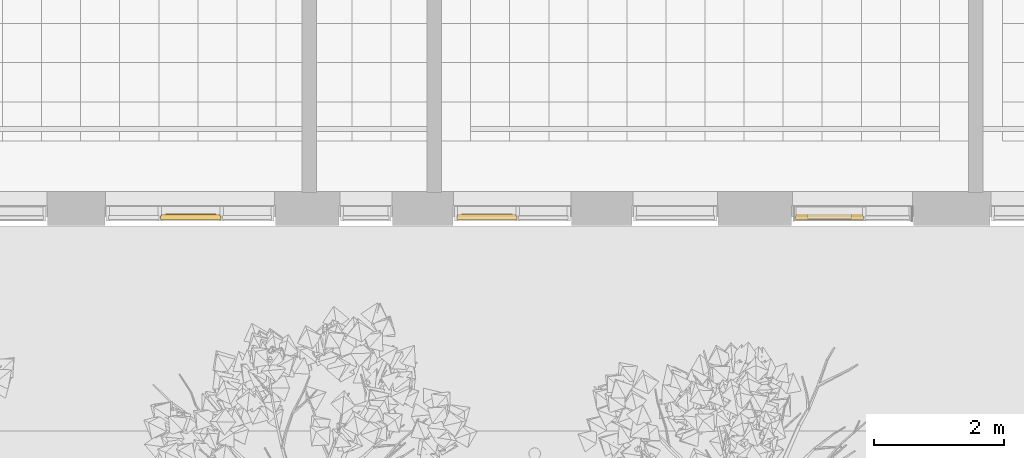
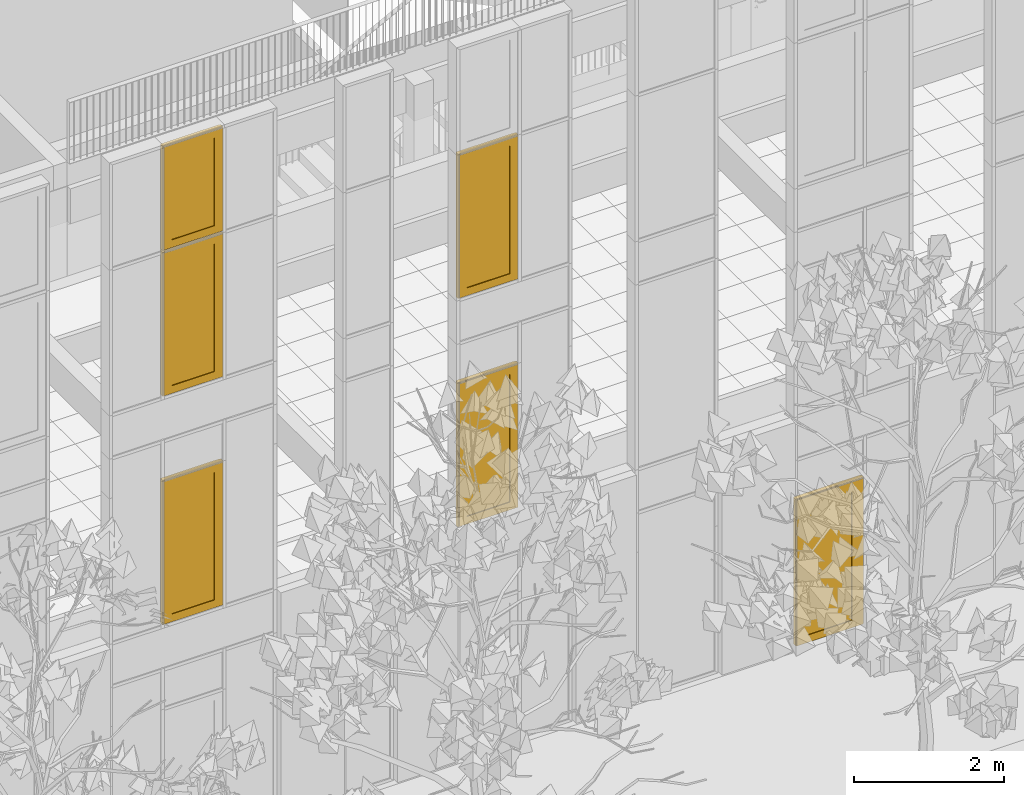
# One storey, part 146 of 246: 5 windows, 1 door, 3 elements without a shape of their own.
"""IFC2X3 building model written with IfcOpenShell, lengths in millimetres."""

from ifc_helpers import new_model, entity, si_unit, converted_unit, derived_unit, money_unit, direction, frame, origin_with_axes, place, context, subcontext, project, spatial, open_shell, faceted_brep, surface_model, source, transform, mapped, material, material_list, type_object, element, aggregate, save


model = new_model("IFC2X3")

# Units and contexts
model_context = context("Model", 3, precision=0.01, world=origin_with_axes(), true_north=direction((0.0, 1.0)))
body_context = subcontext(model_context, "Body", "Model", "MODEL_VIEW")
ifc_project = project(units=[si_unit("LENGTHUNIT", "METRE", prefix="MILLI"), si_unit("AREAUNIT", "SQUARE_METRE"), si_unit("VOLUMEUNIT", "CUBIC_METRE"), converted_unit("PLANEANGLEUNIT", "DEGREE", entity("IfcPlaneAngleMeasure", 0.0174532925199), si_unit("PLANEANGLEUNIT", "RADIAN"), dimensions=[0, 0, 0, 0, 0, 0, 0]), si_unit("SOLIDANGLEUNIT", "STERADIAN"), money_unit("EUR"), converted_unit("TIMEUNIT", "Year", entity("IfcTimeMeasure", 31556926.0), si_unit("TIMEUNIT", "SECOND"), dimensions=[0, 0, 1, 0, 0, 0, 0]), si_unit("MASSUNIT", "GRAM", prefix="KILO"), si_unit("THERMODYNAMICTEMPERATUREUNIT", "DEGREE_CELSIUS"), si_unit("LUMINOUSINTENSITYUNIT", "LUMEN"), si_unit("ENERGYUNIT", "JOULE", prefix="MEGA"), derived_unit("THERMALCONDUCTANCEUNIT", [(si_unit("POWERUNIT", "WATT"), 1), (si_unit("LENGTHUNIT", "METRE"), -1), (si_unit("THERMODYNAMICTEMPERATUREUNIT", "KELVIN"), -1)]), derived_unit("SPECIFICHEATCAPACITYUNIT", [(si_unit("ENERGYUNIT", "JOULE"), 1), (si_unit("MASSUNIT", "GRAM", prefix="KILO"), -1), (si_unit("THERMODYNAMICTEMPERATUREUNIT", "KELVIN"), -1)]), derived_unit("MASSDENSITYUNIT", [(si_unit("MASSUNIT", "GRAM", prefix="KILO"), 1), (si_unit("VOLUMEUNIT", "CUBIC_METRE"), -1)])], contexts=[model_context])

# Site, building, storey
site_placement = place(None, origin_with_axes())
site = spatial("IfcSite", under=ifc_project, at=site_placement, Name="L.Koidula tn 11b", CompositionType="ELEMENT")
building_placement = place(site_placement, origin_with_axes())
building = spatial("IfcBuilding", under=site, at=building_placement, Name="Rakvere Riigigümnaasium", CompositionType="ELEMENT")
storey_placement = place(building_placement, origin_with_axes())
storey = spatial("IfcBuildingStorey", under=building, at=storey_placement, Name="1.korrus 0,00", CompositionType="ELEMENT", Elevation=0.0)

# Curtain wall, windows
curtain_wall_type = type_object("IfcCurtainWallType", Name="Curtain Wall Type", PredefinedType="NOTDEFINED")
curtain_wall_1_placement = place(storey_placement, frame((48860.000217, 5111.43278481, -1.61944597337e-05), z_axis=(0.0, 0.0, 1.0), x_axis=(1.0, 0.0, 0.0)))
curtain_wall_1 = element("IfcCurtainWall", 1, at=curtain_wall_1_placement, inside=storey, type_object=curtain_wall_type, Name="KLF-05-3A")
ifc_material_1 = material(Name="Alumiiniumprofiil (RAL 7021)")
ifc_material_2 = material(Name="Klaaspakett 3x ribikardinatega")
ifc_material_list = material_list([ifc_material_1, ifc_material_2])
window_style_1 = type_object("IfcWindowStyle", Name="926 x 2351 x 54", ConstructionType="NOTDEFINED", OperationType="NOTDEFINED", ParameterTakesPrecedence=False, Sizeable=False)
shared_shape_1 = source(origin_with_axes(), body_context, "Body", "SurfaceModel", [
    surface_model("IfcShellBasedSurfaceModel", [(24.9999850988, 24.9999850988, 38.0), (83.9999850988, 83.9999850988, 38.0), (866.000014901, 83.9999850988, 38.0), (925.000014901, 24.9999850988, 38.0)], [open_shell([[[0, 1, 2, 3]]])]),
    surface_model("IfcShellBasedSurfaceModel", [(925.000014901, 24.9999850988, 38.0), (866.000014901, 83.9999850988, 38.0), (866.000014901, 2291.0000149, 38.0), (925.000014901, 2350.0000149, 38.0)], [open_shell([[[0, 1, 2, 3]]])]),
    surface_model("IfcShellBasedSurfaceModel", [(24.9999850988, 2350.0000149, 38.0), (925.000014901, 2350.0000149, 38.0), (866.000014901, 2291.0000149, 38.0), (83.9999850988, 2291.0000149, 38.0)], [open_shell([[[0, 1, 2, 3]]])]),
    surface_model("IfcShellBasedSurfaceModel", [(24.9999850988, 24.9999850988, 38.0), (24.9999850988, 2350.0000149, 38.0), (83.9999850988, 2291.0000149, 38.0), (83.9999850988, 83.9999850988, 38.0)], [open_shell([[[0, 1, 2, 3]]])]),
    faceted_brep([(24.9999850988, 24.9999850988, -51.0), (925.000014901, 24.9999850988, -51.0), (925.000014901, 24.9999850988, 38.0), (24.9999850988, 24.9999850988, 38.0), (83.9999850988, 83.9999850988, -51.0), (866.000014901, 83.9999850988, -51.0), (866.000014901, 83.9999850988, 38.0), (83.9999850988, 83.9999850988, 38.0)], [[[0, 1, 2, 3]], [[0, 4, 5, 1]], [[1, 5, 6, 2]], [[3, 2, 6, 7]], [[4, 0, 3, 7]], [[5, 4, 7, 6]]]),
    faceted_brep([(925.000014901, 24.9999850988, -51.0), (925.000014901, 2350.0000149, -51.0), (925.000014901, 2350.0000149, 38.0), (925.000014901, 24.9999850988, 38.0), (866.000014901, 83.9999850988, -51.0), (866.000014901, 2291.0000149, -51.0), (866.000014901, 2291.0000149, 38.0), (866.000014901, 83.9999850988, 38.0)], [[[0, 1, 2, 3]], [[0, 4, 5, 1]], [[1, 5, 6, 2]], [[3, 2, 6, 7]], [[4, 0, 3, 7]], [[5, 4, 7, 6]]]),
    faceted_brep([(24.9999850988, 2350.0000149, -51.0), (83.9999850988, 2291.0000149, -51.0), (83.9999850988, 2291.0000149, 38.0), (24.9999850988, 2350.0000149, 38.0), (925.000014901, 2350.0000149, -51.0), (866.000014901, 2291.0000149, -51.0), (866.000014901, 2291.0000149, 38.0), (925.000014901, 2350.0000149, 38.0)], [[[0, 1, 2, 3]], [[0, 4, 5, 1]], [[1, 5, 6, 2]], [[3, 2, 6, 7]], [[4, 0, 3, 7]], [[5, 4, 7, 6]]]),
    faceted_brep([(24.9999850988, 24.9999850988, -51.0), (83.9999850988, 83.9999850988, -51.0), (83.9999850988, 83.9999850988, 38.0), (24.9999850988, 24.9999850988, 38.0), (24.9999850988, 2350.0000149, -51.0), (83.9999850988, 2291.0000149, -51.0), (83.9999850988, 2291.0000149, 38.0), (24.9999850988, 2350.0000149, 38.0)], [[[0, 1, 2, 3]], [[0, 4, 5, 1]], [[1, 5, 6, 2]], [[3, 2, 6, 7]], [[4, 0, 3, 7]], [[5, 4, 7, 6]]]),
    faceted_brep([(11.9999985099, 11.9999985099, -27.0), (938.00000149, 11.9999985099, -27.0), (938.00000149, 11.9999985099, 27.0), (11.9999985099, 11.9999985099, 27.0), (24.9999850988, 24.9999850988, -27.0), (925.000014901, 24.9999850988, -27.0), (925.000014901, 24.9999850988, 27.0), (24.9999850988, 24.9999850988, 27.0)], [[[0, 1, 2, 3]], [[0, 4, 5, 1]], [[1, 5, 6, 2]], [[3, 2, 6, 7]], [[4, 0, 3, 7]], [[5, 4, 7, 6]]]),
    faceted_brep([(938.00000149, 11.9999985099, -27.0), (938.00000149, 2363.00000149, -27.0), (938.00000149, 2363.00000149, 27.0), (938.00000149, 11.9999985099, 27.0), (925.000014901, 24.9999850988, -27.0), (925.000014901, 2350.0000149, -27.0), (925.000014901, 2350.0000149, 27.0), (925.000014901, 24.9999850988, 27.0)], [[[0, 1, 2, 3]], [[0, 4, 5, 1]], [[1, 5, 6, 2]], [[3, 2, 6, 7]], [[4, 0, 3, 7]], [[5, 4, 7, 6]]]),
    faceted_brep([(938.00000149, 2363.00000149, -27.0), (11.9999985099, 2363.00000149, -27.0), (11.9999985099, 2363.00000149, 27.0), (938.00000149, 2363.00000149, 27.0), (925.000014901, 2350.0000149, -27.0), (24.9999850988, 2350.0000149, -27.0), (24.9999850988, 2350.0000149, 27.0), (925.000014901, 2350.0000149, 27.0)], [[[0, 1, 2, 3]], [[0, 4, 5, 1]], [[1, 5, 6, 2]], [[3, 2, 6, 7]], [[4, 0, 3, 7]], [[5, 4, 7, 6]]]),
    faceted_brep([(11.9999985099, 2363.00000149, -27.0), (11.9999985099, 11.9999985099, -27.0), (11.9999985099, 11.9999985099, 27.0), (11.9999985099, 2363.00000149, 27.0), (24.9999850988, 2350.0000149, -27.0), (24.9999850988, 24.9999850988, -27.0), (24.9999850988, 24.9999850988, 27.0), (24.9999850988, 2350.0000149, 27.0)], [[[0, 1, 2, 3]], [[0, 4, 5, 1]], [[1, 5, 6, 2]], [[3, 2, 6, 7]], [[4, 0, 3, 7]], [[5, 4, 7, 6]]]),
    faceted_brep([(146.999985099, 146.999985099, 38.0), (146.999985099, 146.999985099, -62.0), (146.999985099, 2228.0000149, -62.0), (146.999985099, 2228.0000149, 38.0), (83.9999850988, 83.9999850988, 38.0), (83.9999850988, 83.9999850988, -62.0), (83.9999850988, 2291.0000149, -62.0), (83.9999850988, 2291.0000149, 38.0)], [[[0, 1, 2, 3]], [[4, 5, 1, 0]], [[1, 5, 6, 2]], [[3, 2, 6, 7]], [[0, 3, 7, 4]], [[7, 6, 5, 4]]]),
    faceted_brep([(866.000014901, 83.9999850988, 38.0), (866.000014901, 83.9999850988, -62.0), (866.000014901, 2291.0000149, -62.0), (866.000014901, 2291.0000149, 38.0), (803.000014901, 146.999985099, 38.0), (803.000014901, 146.999985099, -62.0), (803.000014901, 2228.0000149, -62.0), (803.000014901, 2228.0000149, 38.0)], [[[0, 1, 2, 3]], [[4, 5, 1, 0]], [[1, 5, 6, 2]], [[3, 2, 6, 7]], [[0, 3, 7, 4]], [[7, 6, 5, 4]]]),
    faceted_brep([(866.000014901, 83.9999850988, 38.0), (866.000014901, 83.9999850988, -62.0), (803.000014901, 146.999985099, -62.0), (803.000014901, 146.999985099, 38.0), (83.9999850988, 83.9999850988, 38.0), (83.9999850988, 83.9999850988, -62.0), (146.999985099, 146.999985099, -62.0), (146.999985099, 146.999985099, 38.0)], [[[0, 1, 2, 3]], [[4, 5, 1, 0]], [[1, 5, 6, 2]], [[3, 2, 6, 7]], [[0, 3, 7, 4]], [[7, 6, 5, 4]]]),
    faceted_brep([(83.9999850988, 2291.0000149, 38.0), (83.9999850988, 2291.0000149, -62.0), (146.999985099, 2228.0000149, -62.0), (146.999985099, 2228.0000149, 38.0), (866.000014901, 2291.0000149, 38.0), (866.000014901, 2291.0000149, -62.0), (803.000014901, 2228.0000149, -62.0), (803.000014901, 2228.0000149, 38.0)], [[[0, 1, 2, 3]], [[4, 5, 1, 0]], [[1, 5, 6, 2]], [[3, 2, 6, 7]], [[0, 3, 7, 4]], [[7, 6, 5, 4]]]),
    faceted_brep([(146.999985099, 146.999985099, 27.0), (146.999985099, 146.999985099, -38.0), (803.000014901, 146.999985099, -38.0), (803.000014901, 146.999985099, 27.0), (146.999985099, 2228.0000149, 27.0), (146.999985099, 2228.0000149, -38.0), (803.000014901, 2228.0000149, -38.0), (803.000014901, 2228.0000149, 27.0)], [[[0, 1, 2, 3]], [[4, 5, 1, 0]], [[1, 5, 6, 2]], [[3, 2, 6, 7]], [[0, 3, 7, 4]], [[7, 6, 5, 4]]]),
])
window_1_placement = place(curtain_wall_1_placement, frame((0.0, 0.0, 4932.5), z_axis=(0.0, 0.0, 1.0), x_axis=(-0.999999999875, 1.58166009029e-05, 0.0)))
window_1 = element("IfcWindow", 2, at=window_1_placement, type_object=window_style_1, material=ifc_material_list, Name="KLF-05-A-2", ObjectType="WINDOW", context=body_context, shape_type="MappedRepresentation", body=[
    mapped(shared_shape_1, transform((475.0, 0.0, -1187.5), x_axis=(-1.0, 0.0, 0.0), y_axis=(0.0, 0.0, 1.0), z_axis=(0.0, 1.0, 0.0))),
])
window_2_placement = place(curtain_wall_1_placement, frame((0.0, 0.0, 8652.5), z_axis=(0.0, 0.0, 1.0), x_axis=(-0.999999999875, 1.58166009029e-05, 0.0)))
window_2 = element("IfcWindow", 3, at=window_2_placement, type_object=window_style_1, material=ifc_material_list, Name="KLF-05-A-2", ObjectType="WINDOW", context=body_context, shape_type="MappedRepresentation", body=[
    mapped(shared_shape_1, transform((475.0, 0.0, -1187.5), x_axis=(-1.0, 0.0, 0.0), y_axis=(0.0, 0.0, 1.0), z_axis=(0.0, 1.0, 0.0))),
])

# Curtain wall, door
curtain_wall_2_placement = place(storey_placement, frame((59064.0000846, 5111.45334637, -8.09717250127e-06), z_axis=(0.0, 0.0, 1.0), x_axis=(1.0, 0.0, 0.0)))
curtain_wall_2 = element("IfcCurtainWall", 4, at=curtain_wall_2_placement, inside=storey, type_object=curtain_wall_type, Name="KLF-05-2A")
door_style = type_object("IfcDoorStyle", Name="1046 x 2388 x 54", ConstructionType="NOTDEFINED", OperationType="NOTDEFINED", ParameterTakesPrecedence=False, Sizeable=False)
shared_shape_2 = source(origin_with_axes(), body_context, "Body", "SurfaceModel", [
    surface_model("IfcShellBasedSurfaceModel", [(1070.0, 0.0, -53.0), (1017.0, 0.0, -53.0), (1017.0, 2322.0, -53.0), (1070.0, 2375.0, -53.0)], [open_shell([[[0, 1, 2, 3]]])]),
    surface_model("IfcShellBasedSurfaceModel", [(50.0, 2375.0, -53.0), (1070.0, 2375.0, -53.0), (1017.0, 2322.0, -53.0), (103.0, 2322.0, -53.0)], [open_shell([[[0, 1, 2, 3]]])]),
    surface_model("IfcShellBasedSurfaceModel", [(50.0, 0.0, -53.0), (50.0, 2375.0, -53.0), (103.0, 2322.0, -53.0), (103.0, 0.0, -53.0)], [open_shell([[[0, 1, 2, 3]]])]),
    faceted_brep([(1070.0, 0.0, -53.0), (1070.0, 2375.0, -53.0), (1070.0, 2375.0, 37.0), (1070.0, 0.0, 37.0), (1017.0, 0.0, -53.0), (1017.0, 2322.0, -53.0), (1017.0, 2322.0, 37.0), (1017.0, 0.0, 37.0)], [[[0, 1, 2, 3]], [[0, 4, 5, 1]], [[1, 5, 6, 2]], [[3, 2, 6, 7]], [[4, 0, 3, 7]], [[5, 4, 7, 6]]]),
    faceted_brep([(50.0, 2375.0, -53.0), (103.0, 2322.0, -53.0), (103.0, 2322.0, 37.0), (50.0, 2375.0, 37.0), (1070.0, 2375.0, -53.0), (1017.0, 2322.0, -53.0), (1017.0, 2322.0, 37.0), (1070.0, 2375.0, 37.0)], [[[0, 1, 2, 3]], [[0, 4, 5, 1]], [[1, 5, 6, 2]], [[3, 2, 6, 7]], [[4, 0, 3, 7]], [[5, 4, 7, 6]]]),
    faceted_brep([(50.0, 0.0, -53.0), (103.0, 0.0, -53.0), (103.0, 0.0, 37.0), (50.0, 0.0, 37.0), (50.0, 2375.0, -53.0), (103.0, 2322.0, -53.0), (103.0, 2322.0, 37.0), (50.0, 2375.0, 37.0)], [[[0, 1, 2, 3]], [[0, 4, 5, 1]], [[1, 5, 6, 2]], [[3, 2, 6, 7]], [[4, 0, 3, 7]], [[5, 4, 7, 6]]]),
    faceted_brep([(1083.0, 0.0, -27.0), (1083.0, 2388.0, -27.0), (1083.0, 2388.0, 27.0), (1083.0, 0.0, 27.0), (1070.0, 0.0, -27.0), (1070.0, 2375.0, -27.0), (1070.0, 2375.0, 27.0), (1070.0, 0.0, 27.0)], [[[0, 1, 2, 3]], [[0, 4, 5, 1]], [[1, 5, 6, 2]], [[3, 2, 6, 7]], [[4, 0, 3, 7]], [[5, 4, 7, 6]]]),
    faceted_brep([(1083.0, 2388.0, -27.0), (37.0, 2388.0, -27.0), (37.0, 2388.0, 27.0), (1083.0, 2388.0, 27.0), (1070.0, 2375.0, -27.0), (50.0, 2375.0, -27.0), (50.0, 2375.0, 27.0), (1070.0, 2375.0, 27.0)], [[[0, 1, 2, 3]], [[0, 4, 5, 1]], [[1, 5, 6, 2]], [[3, 2, 6, 7]], [[4, 0, 3, 7]], [[5, 4, 7, 6]]]),
    faceted_brep([(37.0, 2388.0, -27.0), (37.0, 0.0, -27.0), (37.0, 0.0, 27.0), (37.0, 2388.0, 27.0), (50.0, 2375.0, -27.0), (50.0, 0.0, -27.0), (50.0, 0.0, 27.0), (50.0, 2375.0, 27.0)], [[[0, 1, 2, 3]], [[0, 4, 5, 1]], [[1, 5, 6, 2]], [[3, 2, 6, 7]], [[4, 0, 3, 7]], [[5, 4, 7, 6]]]),
    faceted_brep([(222.0, 119.0, -53.0), (222.0, 2203.0, -53.0), (222.0, 2203.0, 37.0), (222.0, 119.0, 37.0), (103.0, 0.0, -53.0), (103.0, 2322.0, -53.0), (103.0, 2322.0, 37.0), (103.0, 0.0, 37.0)], [[[0, 1, 2, 3]], [[0, 4, 5, 1]], [[1, 5, 6, 2]], [[3, 2, 6, 7]], [[4, 0, 3, 7]], [[5, 4, 7, 6]]]),
    faceted_brep([(1017.0, 0.0, -53.0), (1017.0, 2322.0, -53.0), (1017.0, 2322.0, 37.0), (1017.0, 0.0, 37.0), (898.0, 119.0, -53.0), (898.0, 2203.0, -53.0), (898.0, 2203.0, 37.0), (898.0, 119.0, 37.0)], [[[0, 1, 2, 3]], [[0, 4, 5, 1]], [[1, 5, 6, 2]], [[3, 2, 6, 7]], [[4, 0, 3, 7]], [[5, 4, 7, 6]]]),
    faceted_brep([(1017.0, 0.0, -53.0), (898.0, 119.0, -53.0), (898.0, 119.0, 37.0), (1017.0, 0.0, 37.0), (103.0, 0.0, -53.0), (222.0, 119.0, -53.0), (222.0, 119.0, 37.0), (103.0, 0.0, 37.0)], [[[0, 1, 2, 3]], [[0, 4, 5, 1]], [[1, 5, 6, 2]], [[3, 2, 6, 7]], [[4, 0, 3, 7]], [[5, 4, 7, 6]]]),
    faceted_brep([(103.0, 2322.0, -53.0), (222.0, 2203.0, -53.0), (222.0, 2203.0, 37.0), (103.0, 2322.0, 37.0), (1017.0, 2322.0, -53.0), (898.0, 2203.0, -53.0), (898.0, 2203.0, 37.0), (1017.0, 2322.0, 37.0)], [[[0, 1, 2, 3]], [[0, 4, 5, 1]], [[1, 5, 6, 2]], [[3, 2, 6, 7]], [[4, 0, 3, 7]], [[5, 4, 7, 6]]]),
    faceted_brep([(222.0, 119.0, 11.0), (898.0, 119.0, 11.0), (898.0, 119.0, 27.0), (222.0, 119.0, 27.0), (222.0, 2203.0, 11.0), (898.0, 2203.0, 11.0), (898.0, 2203.0, 27.0), (222.0, 2203.0, 27.0)], [[[0, 1, 2, 3]], [[0, 4, 5, 1]], [[1, 5, 6, 2]], [[3, 2, 6, 7]], [[4, 0, 3, 7]], [[5, 4, 7, 6]]]),
])
door_placement = place(curtain_wall_2_placement, frame((-582.333458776, 0.0, 1200.0), z_axis=(0.0, 0.0, 1.0), x_axis=(-1.0, 0.0, 0.0)))
door = element("IfcDoor", 5, at=door_placement, type_object=door_style, material=ifc_material_list, Name="KLF-05-VU-2", ObjectType="DOOR", context=body_context, shape_type="MappedRepresentation", body=[
    mapped(shared_shape_2, transform((371.666628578, 0.0, -1200.0), x_axis=(-1.0, 0.0, 0.0), y_axis=(0.0, 0.0, 1.0), z_axis=(0.0, 1.0, 0.0))),
])
aggregate(curtain_wall_2, [door])

# Window
window_style_2 = type_object("IfcWindowStyle", Name="926 x 1701 x 54", ConstructionType="NOTDEFINED", OperationType="NOTDEFINED", ParameterTakesPrecedence=False, Sizeable=False)
shared_shape_3 = source(origin_with_axes(), body_context, "Body", "SurfaceModel", [
    surface_model("IfcShellBasedSurfaceModel", [(24.9999968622, 24.9999968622, 38.0), (83.9999968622, 83.9999968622, 38.0), (865.999988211, 83.9999968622, 38.0), (924.999988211, 24.9999968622, 38.0)], [open_shell([[[0, 1, 2, 3]]])]),
    surface_model("IfcShellBasedSurfaceModel", [(924.999988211, 24.9999968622, 38.0), (865.999988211, 83.9999968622, 38.0), (865.999988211, 1641.0000474, 38.0), (924.999988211, 1700.0000474, 38.0)], [open_shell([[[0, 1, 2, 3]]])]),
    surface_model("IfcShellBasedSurfaceModel", [(24.9999968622, 1700.0000474, 38.0), (924.999988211, 1700.0000474, 38.0), (865.999988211, 1641.0000474, 38.0), (83.9999968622, 1641.0000474, 38.0)], [open_shell([[[0, 1, 2, 3]]])]),
    surface_model("IfcShellBasedSurfaceModel", [(24.9999968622, 24.9999968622, 38.0), (24.9999968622, 1700.0000474, 38.0), (83.9999968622, 1641.0000474, 38.0), (83.9999968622, 83.9999968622, 38.0)], [open_shell([[[0, 1, 2, 3]]])]),
    faceted_brep([(24.9999968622, 24.9999968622, -51.0), (924.999988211, 24.9999968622, -51.0), (924.999988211, 24.9999968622, 38.0), (24.9999968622, 24.9999968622, 38.0), (83.9999968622, 83.9999968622, -51.0), (865.999988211, 83.9999968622, -51.0), (865.999988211, 83.9999968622, 38.0), (83.9999968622, 83.9999968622, 38.0)], [[[0, 1, 2, 3]], [[0, 4, 5, 1]], [[1, 5, 6, 2]], [[3, 2, 6, 7]], [[4, 0, 3, 7]], [[5, 4, 7, 6]]]),
    faceted_brep([(924.999988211, 24.9999968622, -51.0), (924.999988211, 1700.0000474, -51.0), (924.999988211, 1700.0000474, 38.0), (924.999988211, 24.9999968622, 38.0), (865.999988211, 83.9999968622, -51.0), (865.999988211, 1641.0000474, -51.0), (865.999988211, 1641.0000474, 38.0), (865.999988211, 83.9999968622, 38.0)], [[[0, 1, 2, 3]], [[0, 4, 5, 1]], [[1, 5, 6, 2]], [[3, 2, 6, 7]], [[4, 0, 3, 7]], [[5, 4, 7, 6]]]),
    faceted_brep([(24.9999968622, 1700.0000474, -51.0), (83.9999968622, 1641.0000474, -51.0), (83.9999968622, 1641.0000474, 38.0), (24.9999968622, 1700.0000474, 38.0), (924.999988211, 1700.0000474, -51.0), (865.999988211, 1641.0000474, -51.0), (865.999988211, 1641.0000474, 38.0), (924.999988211, 1700.0000474, 38.0)], [[[0, 1, 2, 3]], [[0, 4, 5, 1]], [[1, 5, 6, 2]], [[3, 2, 6, 7]], [[4, 0, 3, 7]], [[5, 4, 7, 6]]]),
    faceted_brep([(24.9999968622, 24.9999968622, -51.0), (83.9999968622, 83.9999968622, -51.0), (83.9999968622, 83.9999968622, 38.0), (24.9999968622, 24.9999968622, 38.0), (24.9999968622, 1700.0000474, -51.0), (83.9999968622, 1641.0000474, -51.0), (83.9999968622, 1641.0000474, 38.0), (24.9999968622, 1700.0000474, 38.0)], [[[0, 1, 2, 3]], [[0, 4, 5, 1]], [[1, 5, 6, 2]], [[3, 2, 6, 7]], [[4, 0, 3, 7]], [[5, 4, 7, 6]]]),
    faceted_brep([(12.0000099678, 12.0000099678, -27.0), (938.000001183, 12.0000099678, -27.0), (938.000001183, 12.0000099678, 27.0), (12.0000099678, 12.0000099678, 27.0), (24.9999968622, 24.9999968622, -27.0), (924.999988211, 24.9999968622, -27.0), (924.999988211, 24.9999968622, 27.0), (24.9999968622, 24.9999968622, 27.0)], [[[0, 1, 2, 3]], [[0, 4, 5, 1]], [[1, 5, 6, 2]], [[3, 2, 6, 7]], [[4, 0, 3, 7]], [[5, 4, 7, 6]]]),
    faceted_brep([(938.000001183, 12.0000099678, -27.0), (938.000001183, 1713.0000343, -27.0), (938.000001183, 1713.0000343, 27.0), (938.000001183, 12.0000099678, 27.0), (924.999988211, 24.9999968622, -27.0), (924.999988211, 1700.0000474, -27.0), (924.999988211, 1700.0000474, 27.0), (924.999988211, 24.9999968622, 27.0)], [[[0, 1, 2, 3]], [[0, 4, 5, 1]], [[1, 5, 6, 2]], [[3, 2, 6, 7]], [[4, 0, 3, 7]], [[5, 4, 7, 6]]]),
    faceted_brep([(938.000001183, 1713.0000343, -27.0), (12.0000099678, 1713.0000343, -27.0), (12.0000099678, 1713.0000343, 27.0), (938.000001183, 1713.0000343, 27.0), (924.999988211, 1700.0000474, -27.0), (24.9999968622, 1700.0000474, -27.0), (24.9999968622, 1700.0000474, 27.0), (924.999988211, 1700.0000474, 27.0)], [[[0, 1, 2, 3]], [[0, 4, 5, 1]], [[1, 5, 6, 2]], [[3, 2, 6, 7]], [[4, 0, 3, 7]], [[5, 4, 7, 6]]]),
    faceted_brep([(12.0000099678, 1713.0000343, -27.0), (12.0000099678, 12.0000099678, -27.0), (12.0000099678, 12.0000099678, 27.0), (12.0000099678, 1713.0000343, 27.0), (24.9999968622, 1700.0000474, -27.0), (24.9999968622, 24.9999968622, -27.0), (24.9999968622, 24.9999968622, 27.0), (24.9999968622, 1700.0000474, 27.0)], [[[0, 1, 2, 3]], [[0, 4, 5, 1]], [[1, 5, 6, 2]], [[3, 2, 6, 7]], [[4, 0, 3, 7]], [[5, 4, 7, 6]]]),
    faceted_brep([(146.999996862, 146.999996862, 38.0), (146.999996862, 146.999996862, -62.0), (146.999996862, 1578.0000474, -62.0), (146.999996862, 1578.0000474, 38.0), (83.9999968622, 83.9999968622, 38.0), (83.9999968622, 83.9999968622, -62.0), (83.9999968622, 1641.0000474, -62.0), (83.9999968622, 1641.0000474, 38.0)], [[[0, 1, 2, 3]], [[4, 5, 1, 0]], [[1, 5, 6, 2]], [[3, 2, 6, 7]], [[0, 3, 7, 4]], [[7, 6, 5, 4]]]),
    faceted_brep([(865.999988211, 83.9999968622, 38.0), (865.999988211, 83.9999968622, -62.0), (865.999988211, 1641.0000474, -62.0), (865.999988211, 1641.0000474, 38.0), (802.999988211, 146.999996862, 38.0), (802.999988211, 146.999996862, -62.0), (802.999988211, 1578.0000474, -62.0), (802.999988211, 1578.0000474, 38.0)], [[[0, 1, 2, 3]], [[4, 5, 1, 0]], [[1, 5, 6, 2]], [[3, 2, 6, 7]], [[0, 3, 7, 4]], [[7, 6, 5, 4]]]),
    faceted_brep([(865.999988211, 83.9999968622, 38.0), (865.999988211, 83.9999968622, -62.0), (802.999988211, 146.999996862, -62.0), (802.999988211, 146.999996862, 38.0), (83.9999968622, 83.9999968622, 38.0), (83.9999968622, 83.9999968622, -62.0), (146.999996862, 146.999996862, -62.0), (146.999996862, 146.999996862, 38.0)], [[[0, 1, 2, 3]], [[4, 5, 1, 0]], [[1, 5, 6, 2]], [[3, 2, 6, 7]], [[0, 3, 7, 4]], [[7, 6, 5, 4]]]),
    faceted_brep([(83.9999968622, 1641.0000474, 38.0), (83.9999968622, 1641.0000474, -62.0), (146.999996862, 1578.0000474, -62.0), (146.999996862, 1578.0000474, 38.0), (865.999988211, 1641.0000474, 38.0), (865.999988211, 1641.0000474, -62.0), (802.999988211, 1578.0000474, -62.0), (802.999988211, 1578.0000474, 38.0)], [[[0, 1, 2, 3]], [[4, 5, 1, 0]], [[1, 5, 6, 2]], [[3, 2, 6, 7]], [[0, 3, 7, 4]], [[7, 6, 5, 4]]]),
    faceted_brep([(146.999996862, 146.999996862, 27.0), (146.999996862, 146.999996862, -38.0), (802.999988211, 146.999996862, -38.0), (802.999988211, 146.999996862, 27.0), (146.999996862, 1578.0000474, 27.0), (146.999996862, 1578.0000474, -38.0), (802.999988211, 1578.0000474, -38.0), (802.999988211, 1578.0000474, 27.0)], [[[0, 1, 2, 3]], [[4, 5, 1, 0]], [[1, 5, 6, 2]], [[3, 2, 6, 7]], [[0, 3, 7, 4]], [[7, 6, 5, 4]]]),
])
window_3_placement = place(curtain_wall_1_placement, frame((0.0, 0.0, 10715.0000206), z_axis=(0.0, 0.0, 1.0), x_axis=(-0.999999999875, 1.58166009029e-05, 0.0)))
window_3 = element("IfcWindow", 6, at=window_3_placement, type_object=window_style_2, material=ifc_material_list, Name="KLF-05-A-4", ObjectType="WINDOW", context=body_context, shape_type="MappedRepresentation", body=[
    mapped(shared_shape_3, transform((475.0, 0.0, -875.000020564), x_axis=(-1.0, 0.0, 0.0), y_axis=(0.0, 0.0, 1.0), z_axis=(0.0, 1.0, 0.0))),
])

aggregate(curtain_wall_1, [window_1, window_2, window_3])

# Curtain wall, windows
curtain_wall_3_placement = place(storey_placement, frame((54287.5000684, 5111.45334637, -1.61944652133e-05), z_axis=(0.0, 0.0, 1.0), x_axis=(1.0, 0.0, 0.0)))
curtain_wall_3 = element("IfcCurtainWall", 7, at=curtain_wall_3_placement, inside=storey, type_object=curtain_wall_type, Name="KLF-05-2B")
shared_shape_4 = source(origin_with_axes(), body_context, "Body", "SurfaceModel", [
    surface_model("IfcShellBasedSurfaceModel", [(50.0000055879, 24.9999850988, 38.0), (109.000005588, 83.9999850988, 38.0), (891.0, 83.9999850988, 38.0), (950.0, 24.9999850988, 38.0)], [open_shell([[[0, 1, 2, 3]]])]),
    surface_model("IfcShellBasedSurfaceModel", [(950.0, 24.9999850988, 38.0), (891.0, 83.9999850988, 38.0), (891.0, 2291.0000149, 38.0), (950.0, 2350.0000149, 38.0)], [open_shell([[[0, 1, 2, 3]]])]),
    surface_model("IfcShellBasedSurfaceModel", [(50.0000055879, 2350.0000149, 38.0), (950.0, 2350.0000149, 38.0), (891.0, 2291.0000149, 38.0), (109.000005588, 2291.0000149, 38.0)], [open_shell([[[0, 1, 2, 3]]])]),
    surface_model("IfcShellBasedSurfaceModel", [(50.0000055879, 24.9999850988, 38.0), (50.0000055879, 2350.0000149, 38.0), (109.000005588, 2291.0000149, 38.0), (109.000005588, 83.9999850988, 38.0)], [open_shell([[[0, 1, 2, 3]]])]),
    faceted_brep([(50.0000055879, 24.9999850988, -51.0), (950.0, 24.9999850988, -51.0), (950.0, 24.9999850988, 38.0), (50.0000055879, 24.9999850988, 38.0), (109.000005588, 83.9999850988, -51.0), (891.0, 83.9999850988, -51.0), (891.0, 83.9999850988, 38.0), (109.000005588, 83.9999850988, 38.0)], [[[0, 1, 2, 3]], [[0, 4, 5, 1]], [[1, 5, 6, 2]], [[3, 2, 6, 7]], [[4, 0, 3, 7]], [[5, 4, 7, 6]]]),
    faceted_brep([(950.0, 24.9999850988, -51.0), (950.0, 2350.0000149, -51.0), (950.0, 2350.0000149, 38.0), (950.0, 24.9999850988, 38.0), (891.0, 83.9999850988, -51.0), (891.0, 2291.0000149, -51.0), (891.0, 2291.0000149, 38.0), (891.0, 83.9999850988, 38.0)], [[[0, 1, 2, 3]], [[0, 4, 5, 1]], [[1, 5, 6, 2]], [[3, 2, 6, 7]], [[4, 0, 3, 7]], [[5, 4, 7, 6]]]),
    faceted_brep([(50.0000055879, 2350.0000149, -51.0), (109.000005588, 2291.0000149, -51.0), (109.000005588, 2291.0000149, 38.0), (50.0000055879, 2350.0000149, 38.0), (950.0, 2350.0000149, -51.0), (891.0, 2291.0000149, -51.0), (891.0, 2291.0000149, 38.0), (950.0, 2350.0000149, 38.0)], [[[0, 1, 2, 3]], [[0, 4, 5, 1]], [[1, 5, 6, 2]], [[3, 2, 6, 7]], [[4, 0, 3, 7]], [[5, 4, 7, 6]]]),
    faceted_brep([(50.0000055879, 24.9999850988, -51.0), (109.000005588, 83.9999850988, -51.0), (109.000005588, 83.9999850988, 38.0), (50.0000055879, 24.9999850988, 38.0), (50.0000055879, 2350.0000149, -51.0), (109.000005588, 2291.0000149, -51.0), (109.000005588, 2291.0000149, 38.0), (50.0000055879, 2350.0000149, 38.0)], [[[0, 1, 2, 3]], [[0, 4, 5, 1]], [[1, 5, 6, 2]], [[3, 2, 6, 7]], [[4, 0, 3, 7]], [[5, 4, 7, 6]]]),
    faceted_brep([(36.9999836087, 11.9999985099, -27.0), (962.999986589, 11.9999985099, -27.0), (962.999986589, 11.9999985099, 27.0), (36.9999836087, 11.9999985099, 27.0), (50.0000055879, 24.9999850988, -27.0), (950.0, 24.9999850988, -27.0), (950.0, 24.9999850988, 27.0), (50.0000055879, 24.9999850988, 27.0)], [[[0, 1, 2, 3]], [[0, 4, 5, 1]], [[1, 5, 6, 2]], [[3, 2, 6, 7]], [[4, 0, 3, 7]], [[5, 4, 7, 6]]]),
    faceted_brep([(962.999986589, 11.9999985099, -27.0), (962.999986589, 2363.00000149, -27.0), (962.999986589, 2363.00000149, 27.0), (962.999986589, 11.9999985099, 27.0), (950.0, 24.9999850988, -27.0), (950.0, 2350.0000149, -27.0), (950.0, 2350.0000149, 27.0), (950.0, 24.9999850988, 27.0)], [[[0, 1, 2, 3]], [[0, 4, 5, 1]], [[1, 5, 6, 2]], [[3, 2, 6, 7]], [[4, 0, 3, 7]], [[5, 4, 7, 6]]]),
    faceted_brep([(962.999986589, 2363.00000149, -27.0), (36.9999836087, 2363.00000149, -27.0), (36.9999836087, 2363.00000149, 27.0), (962.999986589, 2363.00000149, 27.0), (950.0, 2350.0000149, -27.0), (50.0000055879, 2350.0000149, -27.0), (50.0000055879, 2350.0000149, 27.0), (950.0, 2350.0000149, 27.0)], [[[0, 1, 2, 3]], [[0, 4, 5, 1]], [[1, 5, 6, 2]], [[3, 2, 6, 7]], [[4, 0, 3, 7]], [[5, 4, 7, 6]]]),
    faceted_brep([(36.9999836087, 2363.00000149, -27.0), (36.9999836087, 11.9999985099, -27.0), (36.9999836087, 11.9999985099, 27.0), (36.9999836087, 2363.00000149, 27.0), (50.0000055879, 2350.0000149, -27.0), (50.0000055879, 24.9999850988, -27.0), (50.0000055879, 24.9999850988, 27.0), (50.0000055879, 2350.0000149, 27.0)], [[[0, 1, 2, 3]], [[0, 4, 5, 1]], [[1, 5, 6, 2]], [[3, 2, 6, 7]], [[4, 0, 3, 7]], [[5, 4, 7, 6]]]),
    faceted_brep([(172.000005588, 146.999985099, 38.0), (172.000005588, 146.999985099, -62.0), (172.000005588, 2228.0000149, -62.0), (172.000005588, 2228.0000149, 38.0), (109.000005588, 83.9999850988, 38.0), (109.000005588, 83.9999850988, -62.0), (109.000005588, 2291.0000149, -62.0), (109.000005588, 2291.0000149, 38.0)], [[[0, 1, 2, 3]], [[4, 5, 1, 0]], [[1, 5, 6, 2]], [[3, 2, 6, 7]], [[0, 3, 7, 4]], [[7, 6, 5, 4]]]),
    faceted_brep([(891.0, 83.9999850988, 38.0), (891.0, 83.9999850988, -62.0), (891.0, 2291.0000149, -62.0), (891.0, 2291.0000149, 38.0), (828.0, 146.999985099, 38.0), (828.0, 146.999985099, -62.0), (828.0, 2228.0000149, -62.0), (828.0, 2228.0000149, 38.0)], [[[0, 1, 2, 3]], [[4, 5, 1, 0]], [[1, 5, 6, 2]], [[3, 2, 6, 7]], [[0, 3, 7, 4]], [[7, 6, 5, 4]]]),
    faceted_brep([(891.0, 83.9999850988, 38.0), (891.0, 83.9999850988, -62.0), (828.0, 146.999985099, -62.0), (828.0, 146.999985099, 38.0), (109.000005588, 83.9999850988, 38.0), (109.000005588, 83.9999850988, -62.0), (172.000005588, 146.999985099, -62.0), (172.000005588, 146.999985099, 38.0)], [[[0, 1, 2, 3]], [[4, 5, 1, 0]], [[1, 5, 6, 2]], [[3, 2, 6, 7]], [[0, 3, 7, 4]], [[7, 6, 5, 4]]]),
    faceted_brep([(109.000005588, 2291.0000149, 38.0), (109.000005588, 2291.0000149, -62.0), (172.000005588, 2228.0000149, -62.0), (172.000005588, 2228.0000149, 38.0), (891.0, 2291.0000149, 38.0), (891.0, 2291.0000149, -62.0), (828.0, 2228.0000149, -62.0), (828.0, 2228.0000149, 38.0)], [[[0, 1, 2, 3]], [[4, 5, 1, 0]], [[1, 5, 6, 2]], [[3, 2, 6, 7]], [[0, 3, 7, 4]], [[7, 6, 5, 4]]]),
    faceted_brep([(172.000005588, 146.999985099, 27.0), (172.000005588, 146.999985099, -38.0), (828.0, 146.999985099, -38.0), (828.0, 146.999985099, 27.0), (172.000005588, 2228.0000149, 27.0), (172.000005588, 2228.0000149, -38.0), (828.0, 2228.0000149, -38.0), (828.0, 2228.0000149, 27.0)], [[[0, 1, 2, 3]], [[4, 5, 1, 0]], [[1, 5, 6, 2]], [[3, 2, 6, 7]], [[0, 3, 7, 4]], [[7, 6, 5, 4]]]),
])
window_4_placement = place(curtain_wall_3_placement, frame((-890.000049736, 0.0, 4932.5), z_axis=(0.0, 0.0, 1.0), x_axis=(-1.0, 0.0, 0.0)))
window_4 = element("IfcWindow", 8, at=window_4_placement, type_object=window_style_1, material=ifc_material_list, Name="KLF-05-A-2", ObjectType="WINDOW", context=body_context, shape_type="MappedRepresentation", body=[
    mapped(shared_shape_4, transform((487.5, 0.0, -1187.5), x_axis=(-1.0, 0.0, 0.0), y_axis=(0.0, 0.0, 1.0), z_axis=(0.0, 1.0, 0.0))),
])
window_5_placement = place(curtain_wall_3_placement, frame((-890.000049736, 0.0, 8652.5), z_axis=(0.0, 0.0, 1.0), x_axis=(-1.0, 0.0, 0.0)))
window_5 = element("IfcWindow", 9, at=window_5_placement, type_object=window_style_1, material=ifc_material_list, Name="KLF-05-A-2", ObjectType="WINDOW", context=body_context, shape_type="MappedRepresentation", body=[
    mapped(shared_shape_4, transform((487.5, 0.0, -1187.5), x_axis=(-1.0, 0.0, 0.0), y_axis=(0.0, 0.0, 1.0), z_axis=(0.0, 1.0, 0.0))),
])
aggregate(curtain_wall_3, [window_4, window_5])

save(model, "model.ifc")
